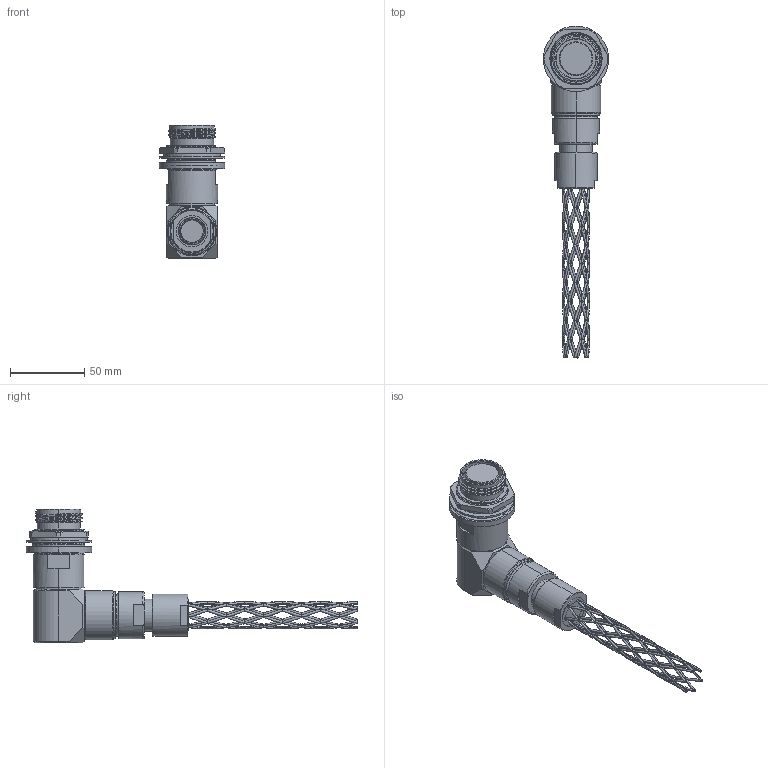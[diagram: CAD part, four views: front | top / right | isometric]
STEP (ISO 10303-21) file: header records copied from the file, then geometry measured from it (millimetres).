
FILE_DESCRIPTION (( 'STEP AP214' ), '1' );
FILE_NAME ('QLINK90-RJTX-19XX-GXXX.STEP', '2025-10-23T14:28:56', ( '' ), ( '' ), 'SwSTEP 2.0', 'SolidWorks 2024', '' );
FILE_SCHEMA (( 'AUTOMOTIVE_DESIGN' ));
Length unit declared in the file: millimetre
Products named in the file (1): QLINK90-RJTX-19XX-GXXX
Bounding box: 44.2 x 223.85 x 90.04 mm (x, y, z)
Volume: 137460.3 mm3; surface area: 37015.9 mm2
Topology: 2 solids, 4 shells, 507 faces, 1400 edges, 814 vertices
Faces by surface type: bspline 258, cylinder 92, plane 81, cone 53, torus 23
Entity records: 119799 total; most frequent: CARTESIAN_POINT 109901, ORIENTED_EDGE 2800, EDGE_CURVE 1400, DIRECTION 1340, VERTEX_POINT 814, AXIS2_PLACEMENT_3D 553, EDGE_LOOP 538, ADVANCED_FACE 507
